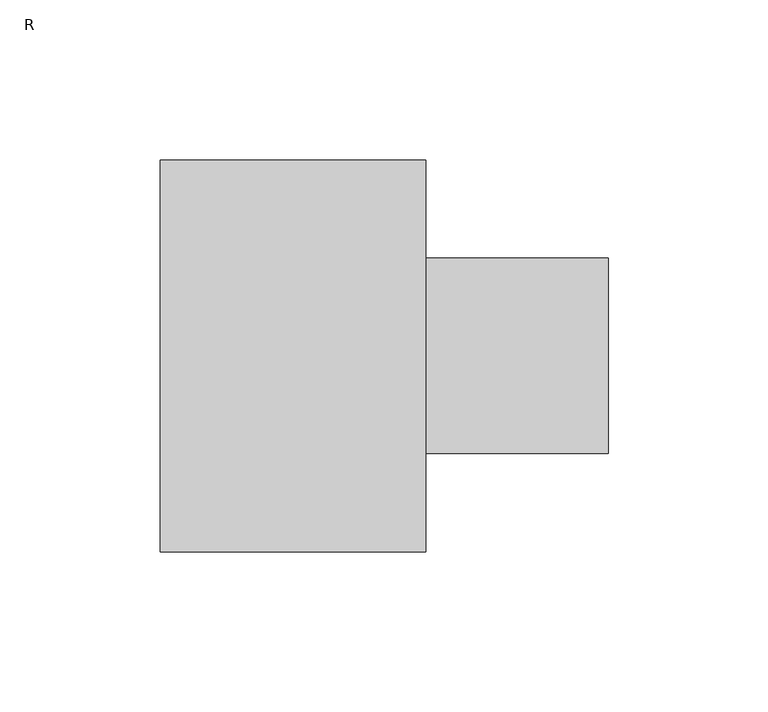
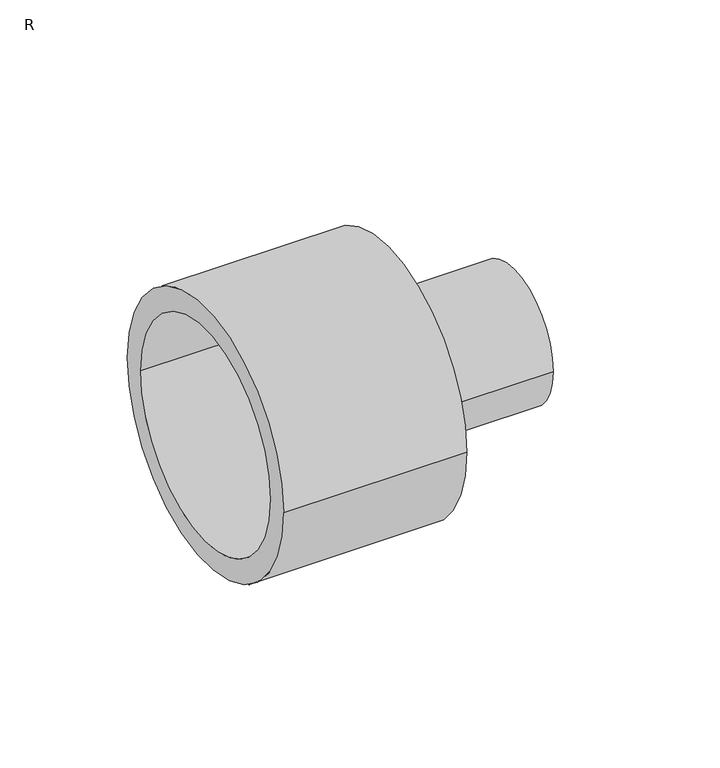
"""IFC4 building model written with IfcOpenShell, lengths in millimetres: pipe fitting geometry, FUSAPEX reducer : R."""

from ifc_helpers import new_model, si_unit, frame, origin, place, context, project, spatial, polyline, circle_curve, source, transform, mapped, element, save
from ifc_brep_helpers import plane_surface, cylinder_surface, revolved_surface, advanced_brep


def r_961efe01(model_context):
    return source(origin(), model_context, "Body", "AdvancedBrep", [
        advanced_brep(
        [(-83.0, 50.85, 0.0), (-83.0, -50.85, 0.0), (-14.3, -50.85, 0.0), (-14.3, 50.85, 0.0), (0.0, 61.3, 0.0), (0.0, -61.3, 0.0), (-83.0, -61.3, 0.0), (-83.0, 61.3, 0.0), (57.0, 30.55, 0.0), (57.0, -30.55, 0.0), (0.0, -30.55, 0.0), (0.0, 30.55, 0.0), (-14.3, 25.25, 0.0), (-14.3, -25.25, 0.0), (57.0, -25.25, 0.0), (57.0, 25.25, 0.0)],
        [
            (0, 1, circle_curve(frame((-83.0, 0.0, 0.0), z_axis=(-1.0, 0.0, 0.0), x_axis=(0.0, -1.0, 0.0)), 50.85)),
            (1, 2),
            (2, 3, circle_curve(frame((-14.3, 0.0, 0.0), z_axis=(1.0, 0.0, 0.0), x_axis=(0.0, -1.0, 0.0)), 50.85)),
            (3, 0),
            (4, 5, circle_curve(frame((0.0, 0.0, 0.0), z_axis=(-1.0, 0.0, 0.0), x_axis=(0.0, -1.0, 0.0)), 61.3)),
            (5, 6),
            (6, 7, circle_curve(frame((-83.0, 0.0, 0.0), z_axis=(1.0, 0.0, 0.0), x_axis=(0.0, -1.0, 0.0)), 61.3)),
            (7, 4),
            (8, 9, circle_curve(frame((57.0, 0.0, 0.0), z_axis=(-1.0, 0.0, 0.0), x_axis=(0.0, -1.0, 0.0)), 30.55)),
            (9, 10),
            (10, 11, circle_curve(frame((0.0, 0.0, 0.0), z_axis=(1.0, 0.0, 0.0), x_axis=(0.0, -1.0, 0.0)), 30.55)),
            (11, 8),
            (12, 13, circle_curve(frame((-14.3, 0.0, 0.0), z_axis=(-1.0, 0.0, 0.0), x_axis=(0.0, -1.0, 0.0)), 25.25)),
            (13, 14),
            (14, 15, circle_curve(frame((57.0, 0.0, 0.0), z_axis=(1.0, 0.0, 0.0), x_axis=(0.0, -1.0, 0.0)), 25.25)),
            (15, 12),
            (1, 0, circle_curve(frame((-83.0, 0.0, 0.0), z_axis=(-1.0, 0.0, 0.0), x_axis=(0.0, 1.0, 0.0)), 50.85)),
            (3, 2, circle_curve(frame((-14.3, 0.0, 0.0), z_axis=(1.0, 0.0, 0.0), x_axis=(0.0, 1.0, 0.0)), 50.85)),
            (6, 7, circle_curve(frame((-83.0, 0.0, 0.0), z_axis=(-1.0, 0.0, 0.0), x_axis=(0.0, 1.0, 0.0)), 61.3)),
            (5, 4, circle_curve(frame((0.0, 0.0, 0.0), z_axis=(-1.0, 0.0, 0.0), x_axis=(0.0, 1.0, 0.0)), 61.3)),
            (10, 11, circle_curve(frame((0.0, 0.0, 0.0), z_axis=(-1.0, 0.0, 0.0), x_axis=(0.0, 1.0, 0.0)), 30.55)),
            (9, 8, circle_curve(frame((57.0, 0.0, 0.0), z_axis=(-1.0, 0.0, 0.0), x_axis=(0.0, 1.0, 0.0)), 30.55)),
            (14, 15, circle_curve(frame((57.0, 0.0, 0.0), z_axis=(-1.0, 0.0, 0.0), x_axis=(0.0, 1.0, 0.0)), 25.25)),
            (13, 12, circle_curve(frame((-14.3, 0.0, 0.0), z_axis=(-1.0, 0.0, 0.0), x_axis=(0.0, 1.0, 0.0)), 25.25)),
        ],
        [
            revolved_surface(polyline([(-14.3, -50.85, 0.0), (-83.0, -50.85, 0.0)]), (0.0, 0.0, 0.0), (1.0, 0.0, 0.0)),
            cylinder_surface(frame((0.0, 0.0, 0.0), z_axis=(1.0, 0.0, 0.0), x_axis=(0.0, -1.0, 0.0)), 61.3),
            cylinder_surface(frame((0.0, 0.0, 0.0), z_axis=(1.0, 0.0, 0.0), x_axis=(0.0, -1.0, 0.0)), 30.55),
            revolved_surface(polyline([(57.0, -25.25, 0.0), (-14.3, -25.25, 0.0)]), (0.0, 0.0, 0.0), (1.0, 0.0, 0.0)),
            revolved_surface(polyline([(-14.3, 50.85, 0.0), (-83.0, 50.85, 0.0)]), (0.0, 0.0, 0.0), (1.0, 0.0, 0.0)),
            plane_surface(frame((-83.0, 0.0, 0.0), z_axis=(-1.0, 0.0, 0.0), x_axis=(0.0, 1.0, 0.0))),
            cylinder_surface(frame((0.0, 0.0, 0.0), z_axis=(1.0, 0.0, 0.0), x_axis=(0.0, 1.0, 0.0)), 61.3),
            plane_surface(frame((0.0, 0.0, 0.0), z_axis=(1.0, 0.0, 0.0), x_axis=(0.0, 1.0, 0.0))),
            cylinder_surface(frame((0.0, 0.0, 0.0), z_axis=(1.0, 0.0, 0.0), x_axis=(0.0, 1.0, 0.0)), 30.55),
            plane_surface(frame((57.0, 0.0, 0.0), z_axis=(1.0, 0.0, 0.0), x_axis=(0.0, 1.0, 0.0))),
            revolved_surface(polyline([(57.0, 25.25, 0.0), (-14.3, 25.25, 0.0)]), (0.0, 0.0, 0.0), (1.0, 0.0, 0.0)),
            plane_surface(frame((-14.3, 0.0, 0.0), z_axis=(-1.0, 0.0, 0.0), x_axis=(0.0, 1.0, 0.0))),
        ],
        [
            (0, [[1, 2, 3, 4]]),
            (1, [[5, 6, 7, 8]]),
            (2, [[9, 10, 11, 12]]),
            (3, [[13, 14, 15, 16]]),
            (4, [[17, -4, 18, -2]]),
            (5, [[19, -7], [-17, -1]]),
            (6, [[20, -8, -19, -6]]),
            (7, [[-20, -5], [21, -11]]),
            (8, [[22, -12, -21, -10]]),
            (9, [[-22, -9], [23, -15]]),
            (10, [[24, -16, -23, -14]]),
            (11, [[-18, -3], [-24, -13]]),
        ],
    ),
    ])


if __name__ == "__main__":
    model = new_model("IFC4")
    model_context = context("Model", 3, world=origin())
    ifc_project = project(units=[si_unit("LENGTHUNIT", "METRE", prefix="MILLI")], contexts=[model_context])
    site = spatial("IfcSite", under=ifc_project)
    building = spatial("IfcBuilding", under=site)
    placement = place(None, origin())
    r_shape = r_961efe01(model_context)
    element("IfcPipeFitting", 1, ObjectType="FUSAPEX reducer : R", at=placement, inside=building, context=model_context, shape_type="MappedRepresentation", body=[
        mapped(r_shape, transform((0.0, 0.0, 0.0), x_axis=(1.0, 0.0, 0.0), y_axis=(0.0, 1.0, 0.0), z_axis=(0.0, 0.0, 1.0))),
    ])
    save(model, "model.ifc")
